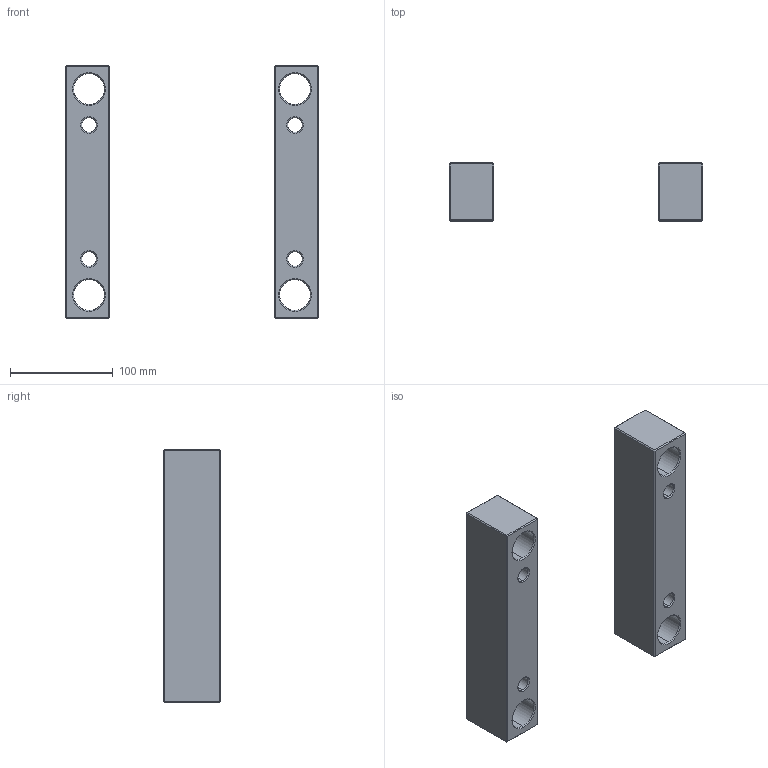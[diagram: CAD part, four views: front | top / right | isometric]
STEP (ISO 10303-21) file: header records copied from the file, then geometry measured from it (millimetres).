
FILE_DESCRIPTION (( 'STEP AP214' ), '1' );
FILE_NAME ('ESP-EU-246X246x56.STEP', '2020-04-15T17:08:42', ( 'August' ), ( '' ), 'SwSTEP 2.0', 'SolidWorks 2018', '' );
FILE_SCHEMA (( 'AUTOMOTIVE_DESIGN' ));
Length unit declared in the file: millimetre
Products named in the file (1): ESP-EU-246X246x56
Bounding box: 246 x 56 x 246 mm (x, y, z)
Volume: 989978.6 mm3; surface area: 128875.4 mm2
Topology: 2 solids, 2 shells, 100 faces, 208 edges, 112 vertices
Faces by surface type: plane 52, cone 32, cylinder 16
Entity records: 2631 total; most frequent: DIRECTION 474, CARTESIAN_POINT 421, ORIENTED_EDGE 416, EDGE_CURVE 208, AXIS2_PLACEMENT_3D 165, VECTOR 144, LINE 144, EDGE_LOOP 116
